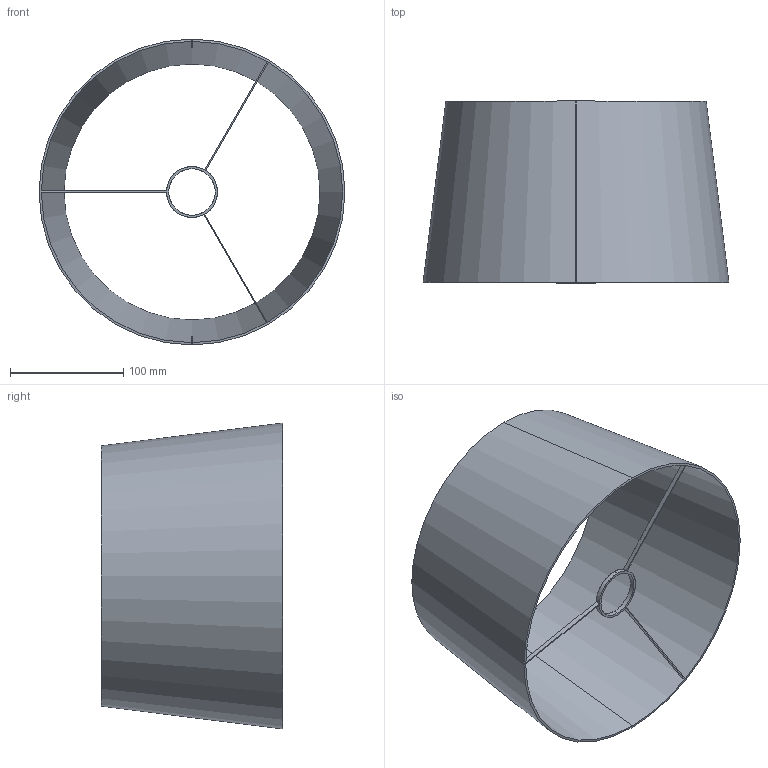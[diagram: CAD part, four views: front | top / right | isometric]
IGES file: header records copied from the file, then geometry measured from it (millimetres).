
Start section: SolidWorks IGES file using analytic representation for surfaces
Global section: file name: C:\Users\a.sempere\Desktop\PANTALLAS\A-PANTALLAS-TELA\5PANT0030B\5PANT0030B.IGS; native system: SolidWorks 2024; preprocessor: SolidWorks 2024; author: a.sempere; date: 250120.123253; units: millimetre
Bounding box: 270 x 160.25 x 270 mm (x, y, z)
Surface area: 259331.2 mm2 (no closed solid volume)
Topology: 0 solids, 0 shells, 32 faces, 376 edges, 376 vertices
Faces by surface type: bspline 20, revolution 12
